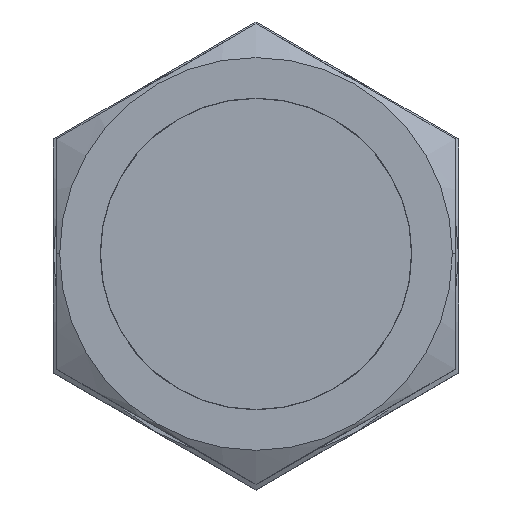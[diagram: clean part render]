
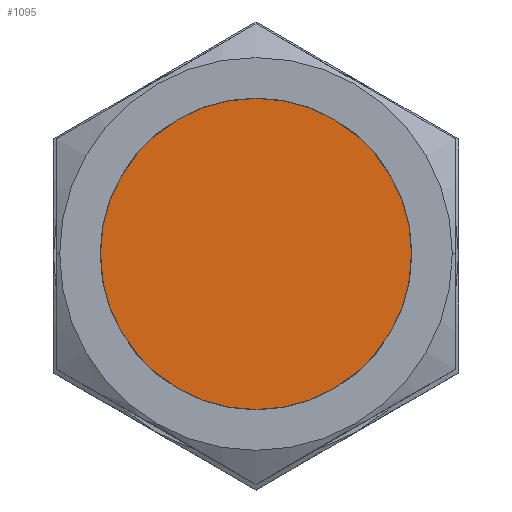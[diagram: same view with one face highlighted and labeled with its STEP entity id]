
A CAD part, top view. The second image highlights one B-rep face of the part: STEP entity #1095.
In plain terms, the highlighted planar face has unit normal (0, 0, 1).
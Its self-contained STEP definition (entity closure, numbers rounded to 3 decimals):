
#85 = DIRECTION ( 'NONE',  ( 0., 0., 1. ) ) ;
#128 = EDGE_LOOP ( 'NONE', ( #290, #295 ) ) ;
#290 = ORIENTED_EDGE ( 'NONE', *, *, #1206, .T. ) ;
#295 = ORIENTED_EDGE ( 'NONE', *, *, #633, .T. ) ;
#361 = AXIS2_PLACEMENT_3D ( 'NONE', #1055, #1548, #393 ) ;
#393 = DIRECTION ( 'NONE',  ( 1., 0., 0. ) ) ;
#456 = AXIS2_PLACEMENT_3D ( 'NONE', #1612, #468, #1006 ) ;
#468 = DIRECTION ( 'NONE',  ( 0., 0., 1. ) ) ;
#609 = FACE_OUTER_BOUND ( 'NONE', #128, .T. ) ;
#633 = EDGE_CURVE ( 'NONE', #1693, #1167, #842, .T. ) ;
#663 = DIRECTION ( 'NONE',  ( 1., 0., 0. ) ) ;
#841 = AXIS2_PLACEMENT_3D ( 'NONE', #1288, #85, #663 ) ;
#842 = CIRCLE ( 'NONE', #841, 4.99 ) ;
#919 = CARTESIAN_POINT ( 'NONE',  ( 4.99, 0., 4.7 ) ) ;
#1006 = DIRECTION ( 'NONE',  ( 1., 0., 0. ) ) ;
#1055 = CARTESIAN_POINT ( 'NONE',  ( 0., 0., 4.7 ) ) ;
#1095 = ADVANCED_FACE ( 'NONE', ( #609 ), #1130, .T. ) ;
#1130 = PLANE ( 'NONE',  #456 ) ;
#1167 = VERTEX_POINT ( 'NONE', #919 ) ;
#1206 = EDGE_CURVE ( 'NONE', #1167, #1693, #1450, .T. ) ;
#1288 = CARTESIAN_POINT ( 'NONE',  ( 0., 0., 4.7 ) ) ;
#1450 = CIRCLE ( 'NONE', #361, 4.99 ) ;
#1451 = CARTESIAN_POINT ( 'NONE',  ( -4.99, 0., 4.7 ) ) ;
#1548 = DIRECTION ( 'NONE',  ( 0., 0., 1. ) ) ;
#1612 = CARTESIAN_POINT ( 'NONE',  ( -6.4, 3.695, 4.7 ) ) ;
#1693 = VERTEX_POINT ( 'NONE', #1451 ) ;
